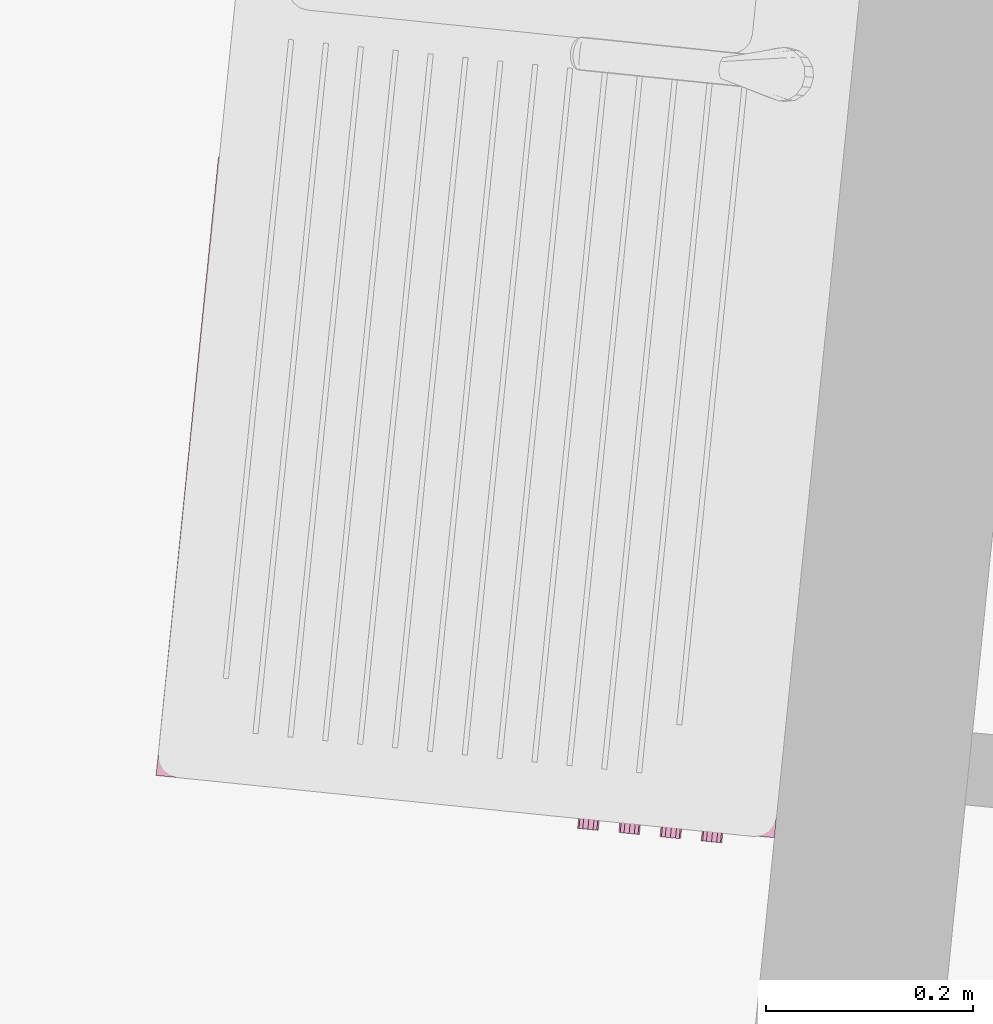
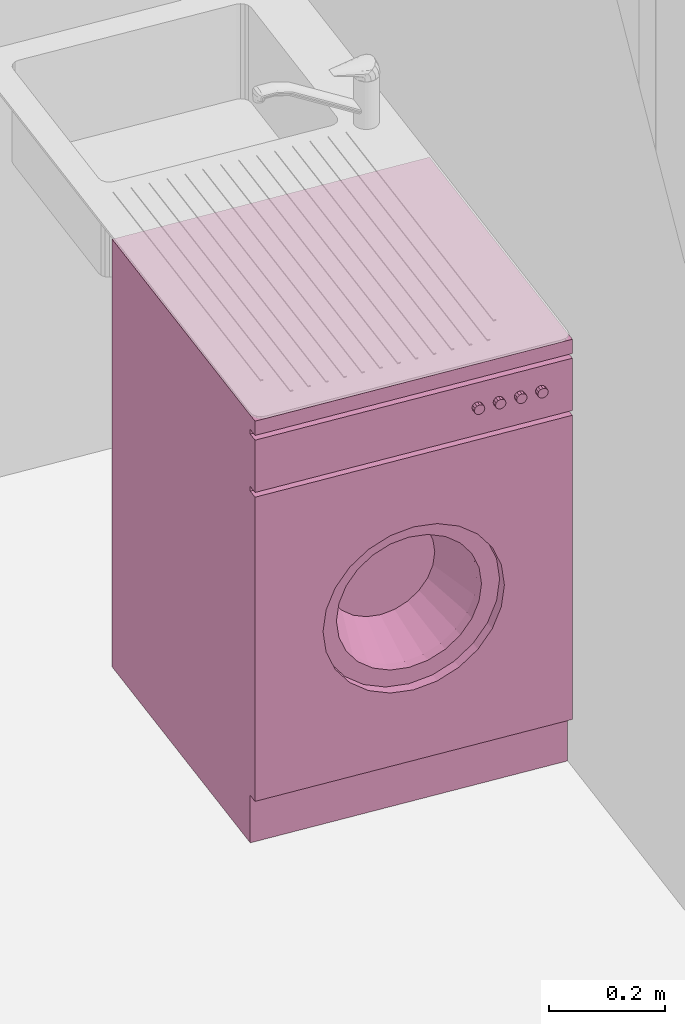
# One storey, part 137 of 171: 1 furnishing.
"""IFC2X3 building model written with IfcOpenShell, lengths in millimetres."""

import ifcopenshell
import ifcopenshell.guid

model = None  # the IFC model being written
_history = None  # IfcOwnerHistory: only IFC2X3 demands one
_inside = {}  # id of a spatial element -> (the spatial element, [elements in it])
_under = {}  # id of a project, library or spatial element -> (it, [spatial elements below it])
_declared = {}  # id of a project -> (the project, [libraries it declares])
_typed = {}  # id of a type object -> (the type object, [elements of that type])
_made_of = {}  # id of a material, layer set ... -> (it, [elements and type objects made of it])


def new_model(schema):
    """Start an empty IFC model of exactly this schema.

    Asked for "IFC4X3", IfcOpenShell would pick the latest addendum, in which some entities
    have other attributes; the version numbers below select the first issue.
    IFC2X3 requires an IfcOwnerHistory on every rooted entity: one is made here for all.
    """
    global model, _history
    if schema == "IFC4X3":
        model = ifcopenshell.file(schema_version=(4, 3, 0, 0))
    else:
        model = ifcopenshell.file(schema=schema)
    _inside.clear()
    _under.clear()
    _declared.clear()
    _typed.clear()
    _made_of.clear()
    _history = None
    if model.schema == "IFC2X3":
        org = make("IfcOrganization", Name="unknown")
        user = make(
            "IfcPersonAndOrganization",
            ThePerson=make("IfcPerson", FamilyName="unknown"),
            TheOrganization=org,
        )
        app = make(
            "IfcApplication",
            ApplicationDeveloper=org,
            Version="unknown",
            ApplicationFullName="unknown",
            ApplicationIdentifier="unknown",
        )
        _history = make(
            "IfcOwnerHistory",
            OwningUser=user,
            OwningApplication=app,
            ChangeAction="ADDED",
            CreationDate=0,
        )
    return model


def make(cls, **values):
    """One entity of the class cls with the attributes given. An attribute that is None is left unset."""
    return model.create_entity(
        cls, **{name: value for name, value in values.items() if value is not None}
    )


def entity(cls, *values):
    """Any entity or typed value of the class cls, its attributes in the order of the schema. None: left unset."""
    e = model.create_entity(cls)
    for i, value in enumerate(values):
        if value is not None:
            e[i] = value
    return e


def rooted(cls, **values):
    """An entity with a GlobalId (a new one), such as an element, a storey or a relation."""
    return make(cls, GlobalId=ifcopenshell.guid.new(), OwnerHistory=_history, **values)


def si_unit(unit_type, name, prefix=None):
    """IfcSIUnit, for example si_unit("LENGTHUNIT", "METRE", prefix="MILLI")."""
    return make("IfcSIUnit", UnitType=unit_type, Prefix=prefix, Name=name)


def converted_unit(unit_type, name, factor, base, dimensions=None, offset=None):
    """IfcConversionBasedUnit, such as the inch: factor (a typed value) times the base unit."""
    return make(
        "IfcConversionBasedUnit"
        if offset is None
        else "IfcConversionBasedUnitWithOffset",
        ConversionOffset=offset,
        Dimensions=None
        if dimensions is None
        else entity("IfcDimensionalExponents", *dimensions),
        UnitType=unit_type,
        Name=name,
        ConversionFactor=make(
            "IfcMeasureWithUnit", ValueComponent=factor, UnitComponent=base
        ),
    )


def derived_unit(unit_type, elements):
    """IfcDerivedUnit: a product of units, each with its exponent."""
    return make(
        "IfcDerivedUnit",
        Elements=[
            make("IfcDerivedUnitElement", Unit=unit, Exponent=power)
            for unit, power in elements
        ],
        UnitType=unit_type,
    )


def money_unit(currency):
    """IfcMonetaryUnit."""
    return make("IfcMonetaryUnit", Currency=currency)


def assignment(units):
    """IfcUnitAssignment: the units of a project."""
    return None if units is None else make("IfcUnitAssignment", Units=units)


def point(xyz):
    """IfcCartesianPoint."""
    return None if xyz is None else make("IfcCartesianPoint", Coordinates=xyz)


def direction(xyz):
    """IfcDirection."""
    return None if xyz is None else make("IfcDirection", DirectionRatios=xyz)


def frame(location, z_axis=None, x_axis=None):
    """IfcAxis2Placement3D, a coordinate frame: its origin and axes. An axis left out is left unset."""
    return make(
        "IfcAxis2Placement3D",
        Location=point(location),
        Axis=direction(z_axis),
        RefDirection=direction(x_axis),
    )


def origin_with_axes():
    """The frame at (0, 0, 0) with the z axis (0, 0, 1) and the x axis (1, 0, 0) written out."""
    return frame((0.0, 0.0, 0.0), z_axis=(0.0, 0.0, 1.0), x_axis=(1.0, 0.0, 0.0))


def place(relative_to, where):
    """IfcLocalPlacement: puts the frame where relative to a parent placement (None: the world)."""
    return make(
        "IfcLocalPlacement", PlacementRelTo=relative_to, RelativePlacement=where
    )


def context(
    kind, dimensions, precision=None, world=None, true_north=None, identifier=None
):
    """IfcGeometricRepresentationContext, for example the 3D "Model" context."""
    return make(
        "IfcGeometricRepresentationContext",
        ContextIdentifier=identifier,
        ContextType=kind,
        CoordinateSpaceDimension=dimensions,
        Precision=precision,
        WorldCoordinateSystem=world,
        TrueNorth=true_north,
    )


def subcontext(parent, identifier, kind, view, scale=None):
    """IfcGeometricRepresentationSubContext, for example "Body" below "Model"."""
    return make(
        "IfcGeometricRepresentationSubContext",
        ContextIdentifier=identifier,
        ContextType=kind,
        ParentContext=parent,
        TargetScale=scale,
        TargetView=view,
    )


def project(units=None, contexts=None):
    """IfcProject with its units and contexts."""
    return rooted(
        "IfcProject",
        Name="project",
        RepresentationContexts=contexts,
        UnitsInContext=assignment(units),
    )


def spatial(cls, under=None, at=None, **own):
    """A site, building, storey or space (cls), placed at a placement, below another one or the project."""
    s = rooted(cls, ObjectPlacement=at, **own)
    if under is not None:
        _under.setdefault(under.id(), (under, []))[1].append(s)
    return s


def faces_of(points, faces, orient=None, outer=None):
    """IfcFace entities. A face is a list of loops; a loop is a list of indices into points, from 0.

    orient and outer hold one flag for each loop. By default every Orientation is true, the
    first loop of a face is its IfcFaceOuterBound and the others are IfcFaceBound.
    """
    made = []
    for i, loops in enumerate(faces):
        bounds = []
        for j, loop in enumerate(loops):
            is_outer = j == 0 if outer is None else outer[i][j]
            bounds.append(
                make(
                    "IfcFaceOuterBound" if is_outer else "IfcFaceBound",
                    Bound=make("IfcPolyLoop", Polygon=[points[k] for k in loop]),
                    Orientation=True if orient is None else orient[i][j],
                )
            )
        made.append(make("IfcFace", Bounds=bounds))
    return made


def open_shell(faces, orient=None, outer=None):
    """The faces of one IfcOpenShell. surface_model builds it on its shared points."""
    return ("IfcOpenShell", faces, orient, outer)


def faceted_brep(points, faces, orient=None, outer=None, voids=None):
    """IfcFacetedBrep: a solid bounded by flat faces; with voids (closed shells), ...WithVoids."""
    shared = [point(p) for p in points]
    hull = make("IfcClosedShell", CfsFaces=faces_of(shared, faces, orient, outer))
    if voids is None:
        return make("IfcFacetedBrep", Outer=hull)
    return make(
        "IfcFacetedBrepWithVoids",
        Outer=hull,
        Voids=[
            make(cls, CfsFaces=faces_of(shared, fs, o, b)) for cls, fs, o, b in voids
        ],
    )


def surface_model(cls, points, shells):
    """IfcFaceBasedSurfaceModel or IfcShellBasedSurfaceModel (cls): surfaces that need not close."""
    shared = [point(p) for p in points]
    made = [make(c, CfsFaces=faces_of(shared, fs, o, b)) for c, fs, o, b in shells]
    if cls == "IfcFaceBasedSurfaceModel":
        return make(cls, FbsmFaces=made)
    return make(cls, SbsmBoundary=made)


def shape(context_of_items, identifier, shape_type, items):
    """IfcShapeRepresentation: the items that make up one representation, for example the "Body"."""
    return make(
        "IfcShapeRepresentation",
        ContextOfItems=context_of_items,
        RepresentationIdentifier=identifier,
        RepresentationType=shape_type,
        Items=items,
    )


def source(mapping_origin, context_of_items, identifier, shape_type, items):
    """IfcRepresentationMap: a shape defined once, which mapped items show again and again."""
    return make(
        "IfcRepresentationMap",
        MappingOrigin=mapping_origin,
        MappedRepresentation=shape(context_of_items, identifier, shape_type, items),
    )


def transform(
    local_origin,
    x_axis=None,
    y_axis=None,
    z_axis=None,
    scale=None,
    scale2=None,
    scale3=None,
    uniform=True,
):
    """IfcCartesianTransformationOperator3D, or its non-uniform kind. x_axis, y_axis, z_axis: its Axis1, 2, 3."""
    if uniform:
        return make(
            "IfcCartesianTransformationOperator3D",
            Axis1=direction(x_axis),
            Axis2=direction(y_axis),
            LocalOrigin=point(local_origin),
            Scale=scale,
            Axis3=direction(z_axis),
        )
    return make(
        "IfcCartesianTransformationOperator3DnonUniform",
        Axis1=direction(x_axis),
        Axis2=direction(y_axis),
        LocalOrigin=point(local_origin),
        Scale=scale,
        Axis3=direction(z_axis),
        Scale2=scale2,
        Scale3=scale3,
    )


def mapped(mapping_source, mapping_target):
    """IfcMappedItem: shows the shape of a source again, moved by a transform."""
    return make(
        "IfcMappedItem", MappingSource=mapping_source, MappingTarget=mapping_target
    )


def made_of(thing, what):
    """Note that an element or type object is made of a material, layer set ...; save() writes the relation."""
    if what is not None:
        _made_of.setdefault(what.id(), (what, []))[1].append(thing)
    return thing


def type_object(cls, material=None, **own):
    """A type object (cls), such as IfcWallType, which elements share."""
    return made_of(rooted(cls, **own), material)


def element(
    cls,
    number,
    at=None,
    inside=None,
    cuts=None,
    type_object=None,
    material=None,
    context=None,
    identifier="Body",
    shape_type=None,
    held_by="IfcProductDefinitionShape",
    body=None,
    shapes=None,
    **own,
):
    """One element of the class cls, such as IfcWall. Its Tag is "e" and its number.

    at: its placement. inside: the storey or other place that contains it. cuts: it is an
    opening in that element (IfcRelVoidsElement). A single representation is given by context,
    identifier, shape_type and body (its items); several are given by shapes. held_by: the class
    of the entity that holds the representations. save() writes the other relations.
    """
    e = rooted(cls, Tag="e%d" % number, ObjectPlacement=at, **own)
    if body is not None:
        shapes = [shape(context, identifier, shape_type, body)]
    if shapes is not None:
        e.Representation = make(held_by, Representations=shapes)
    if inside is not None:
        _inside.setdefault(inside.id(), (inside, []))[1].append(e)
    if cuts is not None:
        rooted(
            "IfcRelVoidsElement", RelatingBuildingElement=cuts, RelatedOpeningElement=e
        )
    if type_object is not None:
        _typed.setdefault(type_object.id(), (type_object, []))[1].append(e)
    return made_of(e, material)


def aggregate(whole, parts):
    """IfcRelAggregates: a whole, such as a stair, and the parts it consists of."""
    return rooted("IfcRelAggregates", RelatingObject=whole, RelatedObjects=parts)


def save(model, path):
    """Write the relations noted so far, then the file.

    IfcRelAggregates (storeys below a building ...), IfcRelContainedInSpatialStructure (elements
    in a storey), IfcRelDefinesByType, IfcRelAssociatesMaterial and IfcRelDeclares: one each for
    every whole, place, type object, material and project.
    """
    for whole, parts in _under.values():
        aggregate(whole, parts)
    for where, things in _inside.values():
        rooted(
            "IfcRelContainedInSpatialStructure",
            RelatedElements=things,
            RelatingStructure=where,
        )
    for kind, things in _typed.values():
        rooted("IfcRelDefinesByType", RelatedObjects=things, RelatingType=kind)
    for what, things in _made_of.values():
        rooted("IfcRelAssociatesMaterial", RelatedObjects=things, RelatingMaterial=what)
    for by, libraries in _declared.values():
        rooted("IfcRelDeclares", RelatingContext=by, RelatedDefinitions=libraries)
    model.write(path)


model = new_model("IFC2X3")

# Units and contexts
model_context = context("Model", 3, precision=0.01, world=origin_with_axes(), true_north=direction((0.0, 1.0)))
body_context = subcontext(model_context, "Body", "Model", "MODEL_VIEW")
ifc_project = project(units=[si_unit("LENGTHUNIT", "METRE", prefix="MILLI"), si_unit("AREAUNIT", "SQUARE_METRE"), si_unit("VOLUMEUNIT", "CUBIC_METRE"), converted_unit("PLANEANGLEUNIT", "DEGREE", entity("IfcPlaneAngleMeasure", 0.0174532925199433), si_unit("PLANEANGLEUNIT", "RADIAN"), dimensions=[0, 0, 0, 0, 0, 0, 0]), money_unit("USD"), converted_unit("TIMEUNIT", "Year", entity("IfcTimeMeasure", 31557600.0), si_unit("TIMEUNIT", "SECOND"), dimensions=[0, 0, 1, 0, 0, 0, 0]), si_unit("MASSUNIT", "GRAM", prefix="KILO"), si_unit("THERMODYNAMICTEMPERATUREUNIT", "DEGREE_CELSIUS"), si_unit("LUMINOUSINTENSITYUNIT", "LUMEN"), si_unit("ENERGYUNIT", "JOULE", prefix="MEGA"), derived_unit("THERMALCONDUCTANCEUNIT", [(si_unit("POWERUNIT", "WATT"), 1), (si_unit("LENGTHUNIT", "METRE"), -1), (si_unit("THERMODYNAMICTEMPERATUREUNIT", "KELVIN"), -1)]), derived_unit("SPECIFICHEATCAPACITYUNIT", [(si_unit("ENERGYUNIT", "JOULE"), 1), (si_unit("MASSUNIT", "GRAM", prefix="KILO"), -1), (si_unit("THERMODYNAMICTEMPERATUREUNIT", "KELVIN"), -1)]), derived_unit("MASSDENSITYUNIT", [(si_unit("MASSUNIT", "GRAM", prefix="KILO"), 1), (si_unit("VOLUMEUNIT", "CUBIC_METRE"), -1)])], contexts=[model_context])

# Site, building, storey
site_placement = place(None, origin_with_axes())
site = spatial("IfcSite", under=ifc_project, at=site_placement, Name="Site", CompositionType="ELEMENT")
building_placement = place(site_placement, origin_with_axes())
building = spatial("IfcBuilding", under=site, at=building_placement, Name="Bâtiment", CompositionType="ELEMENT")
storey_placement = place(building_placement, frame((0.0, 0.0, 3000.0), z_axis=(0.0, 0.0, 1.0), x_axis=(1.0, 0.0, 0.0)))
storey = spatial("IfcBuildingStorey", under=building, at=storey_placement, Name="rdc", CompositionType="ELEMENT", Elevation=3000.0)

# Furnishing
furnishing_element_type = type_object("IfcFurnishingElementType", Name="Machine à laver")
shared_shape = source(origin_with_axes(), body_context, "Body", "SurfaceModel", [
    faceted_brep([(0.0, 20.0, 100.0), (0.0, 0.0, 100.0), (-600.0, 0.0, 100.0), (-600.0, 20.0, 100.0), (0.0, 20.00000000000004, 740.0), (0.0, 0.0, 740.0), (-600.0, 0.0, 740.0), (-471.4285714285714, 0.0, 420.0000000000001), (-465.5872845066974, 0.0, 464.3689791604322), (-448.4614977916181, 0.0, 505.7142857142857), (-421.2183053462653, 0.0, 541.2183053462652), (-385.7142857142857, 0.0, 568.4614977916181), (-344.3689791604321, 0.0, 585.5872845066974), (-300.0000000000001, 0.0, 591.4285714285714), (-255.6310208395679, 0.0, 585.5872845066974), (-214.2857142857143, 0.0, 568.4614977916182), (-178.7816946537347, 0.0, 541.2183053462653), (-151.5385022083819, 0.0, 505.7142857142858), (-134.4127154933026, 0.0, 464.3689791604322), (-128.5714285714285, 0.0, 420.0000000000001), (-134.4127154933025, 0.0, 375.6310208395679), (-151.5385022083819, 0.0, 334.2857142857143), (-178.7816946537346, 0.0, 298.7816946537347), (-214.2857142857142, 0.0, 271.5385022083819), (-255.6310208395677, 0.0, 254.4127154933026), (-299.9999999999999, 0.0, 248.5714285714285), (-344.368979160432, 0.0, 254.4127154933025), (-385.7142857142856, 0.0, 271.5385022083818), (-421.2183053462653, 0.0, 298.7816946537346), (-448.4614977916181, 0.0, 334.2857142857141), (-465.5872845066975, 0.0, 375.6310208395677), (-600.0, 20.00000000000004, 740.0), (-471.4285714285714, 20.00000000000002, 420.0000000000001), (-465.5872845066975, 20.00000000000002, 375.6310208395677), (-448.4614977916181, 20.00000000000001, 334.2857142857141), (-421.2183053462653, 20.00000000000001, 298.7816946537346), (-385.7142857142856, 20.00000000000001, 271.5385022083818), (-344.368979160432, 20.00000000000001, 254.4127154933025), (-299.9999999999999, 20.00000000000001, 248.5714285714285), (-255.6310208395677, 20.00000000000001, 254.4127154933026), (-214.2857142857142, 20.00000000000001, 271.5385022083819), (-178.7816946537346, 20.00000000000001, 298.7816946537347), (-151.5385022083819, 20.00000000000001, 334.2857142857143), (-134.4127154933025, 20.00000000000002, 375.6310208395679), (-128.5714285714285, 20.00000000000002, 420.0000000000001), (-134.4127154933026, 20.00000000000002, 464.3689791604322), (-151.5385022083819, 20.00000000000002, 505.7142857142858), (-178.7816946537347, 20.00000000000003, 541.2183053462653), (-214.2857142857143, 20.00000000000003, 568.4614977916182), (-255.6310208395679, 20.00000000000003, 585.5872845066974), (-300.0000000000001, 20.00000000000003, 591.4285714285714), (-344.3689791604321, 20.00000000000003, 585.5872845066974), (-385.7142857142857, 20.00000000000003, 568.4614977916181), (-421.2183053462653, 20.00000000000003, 541.2183053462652), (-448.4614977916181, 20.00000000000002, 505.7142857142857), (-465.5872845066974, 20.00000000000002, 464.3689791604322)], [[[0, 1, 2, 3]], [[4, 5, 1, 0]], [[1, 5, 6, 2], [7, 8, 9, 10, 11, 12, 13, 14, 15, 16, 17, 18, 19, 20, 21, 22, 23, 24, 25, 26, 27, 28, 29, 30]], [[3, 2, 6, 31]], [[0, 3, 31, 4], [32, 33, 34, 35, 36, 37, 38, 39, 40, 41, 42, 43, 44, 45, 46, 47, 48, 49, 50, 51, 52, 53, 54, 55]], [[31, 6, 5, 4]], [[55, 8, 7, 32]], [[54, 9, 8, 55]], [[53, 10, 9, 54]], [[52, 11, 10, 53]], [[51, 12, 11, 52]], [[50, 13, 12, 51]], [[49, 14, 13, 50]], [[48, 15, 14, 49]], [[47, 16, 15, 48]], [[46, 17, 16, 47]], [[45, 18, 17, 46]], [[44, 19, 18, 45]], [[43, 20, 19, 44]], [[42, 21, 20, 43]], [[41, 22, 21, 42]], [[40, 23, 22, 41]], [[39, 24, 23, 40]], [[38, 25, 24, 39]], [[37, 26, 25, 38]], [[36, 27, 26, 37]], [[35, 28, 27, 36]], [[34, 29, 28, 35]], [[33, 30, 29, 34]], [[32, 7, 30, 33]]]),
    faceted_brep([(-471.4285714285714, 40.00000000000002, 420.0000000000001), (-471.4285714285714, 20.00000000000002, 420.0000000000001), (-465.5872845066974, 20.00000000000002, 464.3689791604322), (-465.5872845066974, 40.00000000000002, 464.3689791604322), (-465.5872845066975, 40.00000000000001, 375.6310208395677), (-465.5872845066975, 20.00000000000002, 375.6310208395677), (-448.4614977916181, 20.00000000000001, 334.2857142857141), (-421.2183053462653, 20.00000000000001, 298.7816946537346), (-385.7142857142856, 20.00000000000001, 271.5385022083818), (-344.368979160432, 20.00000000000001, 254.4127154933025), (-299.9999999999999, 20.00000000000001, 248.5714285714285), (-255.6310208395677, 20.00000000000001, 254.4127154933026), (-214.2857142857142, 20.00000000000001, 271.5385022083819), (-178.7816946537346, 20.00000000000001, 298.7816946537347), (-151.5385022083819, 20.00000000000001, 334.2857142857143), (-134.4127154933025, 20.00000000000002, 375.6310208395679), (-128.5714285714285, 20.00000000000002, 420.0000000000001), (-134.4127154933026, 20.00000000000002, 464.3689791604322), (-151.5385022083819, 20.00000000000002, 505.7142857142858), (-178.7816946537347, 20.00000000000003, 541.2183053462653), (-214.2857142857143, 20.00000000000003, 568.4614977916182), (-255.6310208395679, 20.00000000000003, 585.5872845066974), (-300.0000000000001, 20.00000000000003, 591.4285714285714), (-344.3689791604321, 20.00000000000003, 585.5872845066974), (-385.7142857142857, 20.00000000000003, 568.4614977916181), (-421.2183053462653, 20.00000000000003, 541.2183053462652), (-448.4614977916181, 20.00000000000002, 505.7142857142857), (-437.1428571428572, 20.00000000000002, 420.0000000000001), (-432.469827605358, 20.00000000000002, 455.4951833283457), (-418.7691982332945, 20.00000000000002, 488.5714285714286), (-396.9746442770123, 20.00000000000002, 516.9746442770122), (-368.5714285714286, 20.00000000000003, 538.7691982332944), (-335.4951833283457, 20.00000000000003, 552.469827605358), (-300.0000000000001, 20.00000000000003, 557.1428571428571), (-264.5048166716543, 20.00000000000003, 552.469827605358), (-231.4285714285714, 20.00000000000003, 538.7691982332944), (-203.0253557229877, 20.00000000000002, 516.9746442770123), (-181.2308017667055, 20.00000000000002, 488.5714285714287), (-167.530172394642, 20.00000000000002, 455.4951833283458), (-162.8571428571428, 20.00000000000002, 420.0000000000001), (-167.530172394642, 20.00000000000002, 384.5048166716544), (-181.2308017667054, 20.00000000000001, 351.4285714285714), (-203.0253557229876, 20.00000000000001, 323.0253557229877), (-231.4285714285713, 20.00000000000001, 301.2308017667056), (-264.5048166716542, 20.00000000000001, 287.530172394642), (-299.9999999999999, 20.00000000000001, 282.8571428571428), (-335.4951833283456, 20.00000000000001, 287.530172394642), (-368.5714285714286, 20.00000000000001, 301.2308017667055), (-396.9746442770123, 20.00000000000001, 323.0253557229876), (-418.7691982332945, 20.00000000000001, 351.4285714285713), (-432.469827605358, 20.00000000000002, 384.5048166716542), (-448.4614977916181, 40.00000000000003, 505.7142857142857), (-421.2183053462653, 40.00000000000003, 541.2183053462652), (-385.7142857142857, 40.00000000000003, 568.4614977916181), (-344.3689791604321, 40.00000000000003, 585.5872845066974), (-300.0000000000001, 40.00000000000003, 591.4285714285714), (-255.6310208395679, 40.00000000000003, 585.5872845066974), (-214.2857142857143, 40.00000000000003, 568.4614977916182), (-178.7816946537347, 40.00000000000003, 541.2183053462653), (-151.5385022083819, 40.00000000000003, 505.7142857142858), (-134.4127154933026, 40.00000000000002, 464.3689791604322), (-128.5714285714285, 40.00000000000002, 420.0000000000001), (-134.4127154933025, 40.00000000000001, 375.6310208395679), (-151.5385022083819, 40.00000000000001, 334.2857142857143), (-178.7816946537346, 40.00000000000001, 298.7816946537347), (-214.2857142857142, 40.00000000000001, 271.5385022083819), (-255.6310208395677, 40.00000000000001, 254.4127154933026), (-299.9999999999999, 40.00000000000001, 248.5714285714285), (-344.368979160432, 40.00000000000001, 254.4127154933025), (-385.7142857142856, 40.00000000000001, 271.5385022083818), (-421.2183053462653, 40.00000000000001, 298.7816946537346), (-448.4614977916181, 40.00000000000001, 334.2857142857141), (-437.1428571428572, 40.00000000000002, 420.0000000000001), (-432.469827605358, 40.00000000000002, 384.5048166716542), (-418.7691982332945, 40.00000000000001, 351.4285714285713), (-396.9746442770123, 40.00000000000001, 323.0253557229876), (-368.5714285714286, 40.00000000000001, 301.2308017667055), (-335.4951833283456, 40.00000000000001, 287.530172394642), (-299.9999999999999, 40.00000000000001, 282.8571428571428), (-264.5048166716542, 40.00000000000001, 287.530172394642), (-231.4285714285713, 40.00000000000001, 301.2308017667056), (-203.0253557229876, 40.00000000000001, 323.0253557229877), (-181.2308017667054, 40.00000000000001, 351.4285714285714), (-167.530172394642, 40.00000000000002, 384.5048166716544), (-162.8571428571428, 40.00000000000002, 420.0000000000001), (-167.530172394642, 40.00000000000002, 455.4951833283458), (-181.2308017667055, 40.00000000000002, 488.5714285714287), (-203.0253557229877, 40.00000000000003, 516.9746442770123), (-231.4285714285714, 40.00000000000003, 538.7691982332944), (-264.5048166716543, 40.00000000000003, 552.469827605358), (-300.0000000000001, 40.00000000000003, 557.1428571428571), (-335.4951833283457, 40.00000000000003, 552.469827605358), (-368.5714285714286, 40.00000000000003, 538.7691982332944), (-396.9746442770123, 40.00000000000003, 516.9746442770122), (-418.7691982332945, 40.00000000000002, 488.5714285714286), (-432.469827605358, 40.00000000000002, 455.4951833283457)], [[[0, 1, 2, 3]], [[4, 5, 1, 0]], [[1, 5, 6, 7, 8, 9, 10, 11, 12, 13, 14, 15, 16, 17, 18, 19, 20, 21, 22, 23, 24, 25, 26, 2], [27, 28, 29, 30, 31, 32, 33, 34, 35, 36, 37, 38, 39, 40, 41, 42, 43, 44, 45, 46, 47, 48, 49, 50]], [[3, 2, 26, 51]], [[0, 3, 51, 52, 53, 54, 55, 56, 57, 58, 59, 60, 61, 62, 63, 64, 65, 66, 67, 68, 69, 70, 71, 4], [72, 73, 74, 75, 76, 77, 78, 79, 80, 81, 82, 83, 84, 85, 86, 87, 88, 89, 90, 91, 92, 93, 94, 95]], [[71, 6, 5, 4]], [[70, 7, 6, 71]], [[69, 8, 7, 70]], [[68, 9, 8, 69]], [[67, 10, 9, 68]], [[66, 11, 10, 67]], [[65, 12, 11, 66]], [[64, 13, 12, 65]], [[63, 14, 13, 64]], [[62, 15, 14, 63]], [[61, 16, 15, 62]], [[60, 17, 16, 61]], [[59, 18, 17, 60]], [[58, 19, 18, 59]], [[57, 20, 19, 58]], [[56, 21, 20, 57]], [[55, 22, 21, 56]], [[54, 23, 22, 55]], [[53, 24, 23, 54]], [[52, 25, 24, 53]], [[51, 26, 25, 52]], [[95, 28, 27, 72]], [[94, 29, 28, 95]], [[93, 30, 29, 94]], [[92, 31, 30, 93]], [[91, 32, 31, 92]], [[90, 33, 32, 91]], [[89, 34, 33, 90]], [[88, 35, 34, 89]], [[87, 36, 35, 88]], [[86, 37, 36, 87]], [[85, 38, 37, 86]], [[84, 39, 38, 85]], [[83, 40, 39, 84]], [[82, 41, 40, 83]], [[81, 42, 41, 82]], [[80, 43, 42, 81]], [[79, 44, 43, 80]], [[78, 45, 44, 79]], [[77, 46, 45, 78]], [[76, 47, 46, 77]], [[75, 48, 47, 76]], [[74, 49, 48, 75]], [[73, 50, 49, 74]], [[72, 27, 50, 73]]]),
    surface_model("IfcShellBasedSurfaceModel", [(-264.5048166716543, 39.99999999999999, 552.469827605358), (-273.3786125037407, 140.0, 519.3523707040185), (-300.0, 140.0, 522.8571428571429), (-300.0, 39.99999999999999, 557.1428571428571), (-231.4285714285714, 39.99999999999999, 538.7691982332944), (-248.5714285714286, 140.0, 509.0768986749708), (-227.2690167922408, 140.0, 492.7309832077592), (-210.9231013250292, 140.0, 471.4285714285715), (-200.6476292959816, 140.0, 446.6213874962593), (-197.1428571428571, 140.0, 420.0000000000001), (-200.6476292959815, 140.0, 393.3786125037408), (-210.9231013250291, 140.0, 368.5714285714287), (-227.2690167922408, 140.0, 347.2690167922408), (-248.5714285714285, 140.0, 330.9231013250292), (-273.3786125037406, 140.0, 320.6476292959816), (-299.9999999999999, 140.0, 317.1428571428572), (-326.6213874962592, 140.0, 320.6476292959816), (-351.4285714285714, 140.0, 330.9231013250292), (-372.7309832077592, 140.0, 347.2690167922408), (-389.0768986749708, 140.0, 368.5714285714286), (-399.3523707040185, 140.0, 393.3786125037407), (-402.8571428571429, 140.0, 420.0), (-399.3523707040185, 140.0, 446.6213874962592), (-389.0768986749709, 140.0, 471.4285714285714), (-372.7309832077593, 140.0, 492.7309832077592), (-351.4285714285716, 140.0, 509.0768986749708), (-326.6213874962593, 140.0, 519.3523707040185), (-335.4951833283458, 39.99999999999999, 552.469827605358), (-203.0253557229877, 39.99999999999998, 516.9746442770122), (-181.2308017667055, 39.99999999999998, 488.5714285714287), (-167.5301723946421, 39.99999999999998, 455.4951833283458), (-162.8571428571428, 39.99999999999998, 420.0000000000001), (-167.530172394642, 39.99999999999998, 384.5048166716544), (-181.2308017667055, 39.99999999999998, 351.4285714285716), (-203.0253557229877, 39.99999999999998, 323.0253557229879), (-231.4285714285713, 39.99999999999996, 301.2308017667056), (-264.5048166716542, 39.99999999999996, 287.5301723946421), (-299.9999999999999, 39.99999999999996, 282.8571428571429), (-335.4951833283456, 39.99999999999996, 287.5301723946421), (-368.5714285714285, 39.99999999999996, 301.2308017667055), (-396.9746442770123, 39.99999999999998, 323.0253557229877), (-418.7691982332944, 39.99999999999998, 351.4285714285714), (-432.469827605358, 39.99999999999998, 384.5048166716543), (-437.1428571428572, 39.99999999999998, 419.9999999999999), (-432.469827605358, 39.99999999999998, 455.4951833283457), (-418.7691982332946, 39.99999999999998, 488.5714285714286), (-396.9746442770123, 39.99999999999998, 516.9746442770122), (-368.5714285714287, 39.99999999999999, 538.7691982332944)], [open_shell([[[0, 1, 2, 3]], [[4, 5, 1, 0]], [[2, 1, 5, 6, 7, 8, 9, 10, 11, 12, 13, 14, 15, 16, 17, 18, 19, 20, 21, 22, 23, 24, 25, 26]], [[3, 2, 26, 27]], [[28, 6, 5, 4]], [[29, 7, 6, 28]], [[30, 8, 7, 29]], [[31, 9, 8, 30]], [[32, 10, 9, 31]], [[33, 11, 10, 32]], [[34, 12, 11, 33]], [[35, 13, 12, 34]], [[36, 14, 13, 35]], [[37, 15, 14, 36]], [[38, 16, 15, 37]], [[39, 17, 16, 38]], [[40, 18, 17, 39]], [[41, 19, 18, 40]], [[42, 20, 19, 41]], [[43, 21, 20, 42]], [[44, 22, 21, 43]], [[45, 23, 22, 44]], [[46, 24, 23, 45]], [[47, 25, 24, 46]], [[27, 26, 25, 47]]])]),
    surface_model("IfcShellBasedSurfaceModel", [(0.0, 20.0, 100.0), (0.0, 600.0, 99.99999999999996), (0.0, 600.0, 870.0), (0.0, 20.00000000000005, 870.0)], [open_shell([[[0, 1, 2, 3]]])]),
    surface_model("IfcShellBasedSurfaceModel", [(-600.0, 19.99999999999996, 100.0), (-600.0, 599.9999999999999, 99.99999999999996), (-600.0, 599.9999999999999, 870.0), (-600.0, 20.00000000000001, 870.0)], [open_shell([[[0, 1, 2, 3]]])]),
    surface_model("IfcShellBasedSurfaceModel", [(0.0, 600.0, 100.0), (-600.0, 600.0, 100.0), (-600.0, 600.0, 870.0), (0.0, 600.0, 870.0)], [open_shell([[[0, 1, 2, 3]]])]),
    faceted_brep([(0.0, 20.0, 0.0), (0.0, 20.0, 100.0), (-600.0, 20.0, 100.0), (-600.0, 20.0, 0.0), (0.0, 600.0, 0.0), (0.0, 600.0, 100.0), (-600.0, 600.0, 100.0), (-600.0, 600.0, 0.0)], [[[0, 1, 2, 3]], [[4, 5, 1, 0]], [[1, 5, 6, 2]], [[3, 2, 6, 7]], [[0, 3, 7, 4]], [[7, 6, 5, 4]]]),
    faceted_brep([(0.0, 20.0, 750.0), (0.0, 0.0, 750.0), (-600.0, 0.0, 750.0), (-600.0, 20.0, 750.0), (0.0, 20.00000000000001, 860.0), (0.0, 0.0, 860.0), (-600.0, 0.0, 860.0), (-600.0, 20.00000000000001, 860.0)], [[[0, 1, 2, 3]], [[4, 5, 1, 0]], [[1, 5, 6, 2]], [[3, 2, 6, 7]], [[0, 3, 7, 4]], [[7, 6, 5, 4]]]),
    surface_model("IfcShellBasedSurfaceModel", [(0.0, 20.0, 740.0), (-600.0, 20.0, 740.0), (-600.0, 20.00000000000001, 870.0), (0.0, 20.00000000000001, 870.0)], [open_shell([[[0, 1, 2, 3]]])]),
    faceted_brep([(0.0, 0.0, 870.0), (0.0, 0.0, 900.0), (-600.0, 0.0, 900.0), (-600.0, 0.0, 870.0), (0.0, 600.0, 870.0), (0.0, 600.0, 900.0), (-600.0, 600.0, 900.0), (-600.0, 600.0, 870.0)], [[[0, 1, 2, 3]], [[4, 5, 1, 0]], [[1, 5, 6, 2]], [[3, 2, 6, 7]], [[0, 3, 7, 4]], [[7, 6, 5, 4]]]),
    faceted_brep([(-68.66025403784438, 0.0, 804.9999999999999), (-69.99999999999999, 0.0, 809.9999999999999), (-68.66025403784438, 0.0, 815.0), (-65.0, 0.0, 818.6602540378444), (-60.0, 0.0, 820.0), (-55.0, 0.0, 818.6602540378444), (-51.33974596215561, 0.0, 815.0), (-49.99999999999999, 0.0, 809.9999999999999), (-51.33974596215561, 0.0, 804.9999999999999), (-54.99999999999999, 0.0, 801.3397459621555), (-59.99999999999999, 0.0, 799.9999999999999), (-64.99999999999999, 0.0, 801.3397459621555), (-68.66025403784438, -10.0, 804.9999999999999), (-69.99999999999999, -10.0, 809.9999999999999), (-68.66025403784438, -10.0, 815.0), (-65.0, -10.0, 818.6602540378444), (-60.0, -10.0, 820.0), (-55.0, -10.0, 818.6602540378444), (-51.33974596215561, -10.0, 815.0), (-49.99999999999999, -10.0, 809.9999999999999), (-51.33974596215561, -10.0, 804.9999999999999), (-54.99999999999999, -10.0, 801.3397459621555), (-59.99999999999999, -10.0, 799.9999999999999), (-64.99999999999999, -10.0, 801.3397459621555)], [[[0, 1, 2, 3, 4, 5, 6, 7, 8, 9, 10, 11]], [[0, 12, 13, 1]], [[1, 13, 14, 2]], [[2, 14, 15, 3]], [[3, 15, 16, 4]], [[4, 16, 17, 5]], [[5, 17, 18, 6]], [[6, 18, 19, 7]], [[7, 19, 20, 8]], [[8, 20, 21, 9]], [[9, 21, 22, 10]], [[10, 22, 23, 11]], [[11, 23, 12, 0]], [[12, 23, 22, 21, 20, 19, 18, 17, 16, 15, 14, 13]]]),
    faceted_brep([(-108.6602540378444, 0.0, 804.9999999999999), (-110.0, 0.0, 809.9999999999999), (-108.6602540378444, 0.0, 815.0), (-105.0, 0.0, 818.6602540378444), (-100.0, 0.0, 820.0), (-95.0, 0.0, 818.6602540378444), (-91.33974596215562, 0.0, 815.0), (-90.00000000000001, 0.0, 809.9999999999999), (-91.33974596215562, 0.0, 804.9999999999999), (-95.0, 0.0, 801.3397459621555), (-99.99999999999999, 0.0, 799.9999999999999), (-105.0, 0.0, 801.3397459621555), (-108.6602540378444, -10.0, 804.9999999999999), (-110.0, -10.0, 809.9999999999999), (-108.6602540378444, -10.0, 815.0), (-105.0, -10.0, 818.6602540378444), (-100.0, -10.0, 820.0), (-95.0, -10.0, 818.6602540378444), (-91.33974596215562, -10.0, 815.0), (-90.00000000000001, -10.0, 809.9999999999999), (-91.33974596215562, -10.0, 804.9999999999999), (-95.0, -10.0, 801.3397459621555), (-99.99999999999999, -10.0, 799.9999999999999), (-105.0, -10.0, 801.3397459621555)], [[[0, 1, 2, 3, 4, 5, 6, 7, 8, 9, 10, 11]], [[0, 12, 13, 1]], [[1, 13, 14, 2]], [[2, 14, 15, 3]], [[3, 15, 16, 4]], [[4, 16, 17, 5]], [[5, 17, 18, 6]], [[6, 18, 19, 7]], [[7, 19, 20, 8]], [[8, 20, 21, 9]], [[9, 21, 22, 10]], [[10, 22, 23, 11]], [[11, 23, 12, 0]], [[12, 23, 22, 21, 20, 19, 18, 17, 16, 15, 14, 13]]]),
    faceted_brep([(-148.6602540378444, 0.0, 804.9999999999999), (-150.0, 0.0, 809.9999999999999), (-148.6602540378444, 0.0, 815.0), (-145.0, 0.0, 818.6602540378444), (-140.0, 0.0, 820.0), (-135.0, 0.0, 818.6602540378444), (-131.3397459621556, 0.0, 815.0), (-130.0, 0.0, 809.9999999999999), (-131.3397459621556, 0.0, 804.9999999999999), (-135.0, 0.0, 801.3397459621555), (-140.0, 0.0, 799.9999999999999), (-145.0, 0.0, 801.3397459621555), (-148.6602540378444, -10.0, 804.9999999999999), (-150.0, -10.0, 809.9999999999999), (-148.6602540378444, -10.0, 815.0), (-145.0, -10.0, 818.6602540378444), (-140.0, -10.0, 820.0), (-135.0, -10.0, 818.6602540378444), (-131.3397459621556, -10.0, 815.0), (-130.0, -10.0, 809.9999999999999), (-131.3397459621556, -10.0, 804.9999999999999), (-135.0, -10.0, 801.3397459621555), (-140.0, -10.0, 799.9999999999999), (-145.0, -10.0, 801.3397459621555)], [[[0, 1, 2, 3, 4, 5, 6, 7, 8, 9, 10, 11]], [[0, 12, 13, 1]], [[1, 13, 14, 2]], [[2, 14, 15, 3]], [[3, 15, 16, 4]], [[4, 16, 17, 5]], [[5, 17, 18, 6]], [[6, 18, 19, 7]], [[7, 19, 20, 8]], [[8, 20, 21, 9]], [[9, 21, 22, 10]], [[10, 22, 23, 11]], [[11, 23, 12, 0]], [[12, 23, 22, 21, 20, 19, 18, 17, 16, 15, 14, 13]]]),
    faceted_brep([(-188.6602540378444, 0.0, 804.9999999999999), (-190.0, 0.0, 809.9999999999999), (-188.6602540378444, 0.0, 815.0), (-185.0, 0.0, 818.6602540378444), (-180.0, 0.0, 820.0), (-175.0, 0.0, 818.6602540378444), (-171.3397459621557, 0.0, 815.0), (-170.0, 0.0, 809.9999999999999), (-171.3397459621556, 0.0, 804.9999999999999), (-175.0, 0.0, 801.3397459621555), (-180.0, 0.0, 799.9999999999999), (-185.0, 0.0, 801.3397459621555), (-188.6602540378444, -10.0, 804.9999999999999), (-190.0, -10.0, 809.9999999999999), (-188.6602540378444, -10.0, 815.0), (-185.0, -10.0, 818.6602540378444), (-180.0, -10.0, 820.0), (-175.0, -10.0, 818.6602540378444), (-171.3397459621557, -10.0, 815.0), (-170.0, -10.0, 809.9999999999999), (-171.3397459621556, -10.0, 804.9999999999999), (-175.0, -10.0, 801.3397459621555), (-180.0, -10.0, 799.9999999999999), (-185.0, -10.0, 801.3397459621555)], [[[0, 1, 2, 3, 4, 5, 6, 7, 8, 9, 10, 11]], [[0, 12, 13, 1]], [[1, 13, 14, 2]], [[2, 14, 15, 3]], [[3, 15, 16, 4]], [[4, 16, 17, 5]], [[5, 17, 18, 6]], [[6, 18, 19, 7]], [[7, 19, 20, 8]], [[8, 20, 21, 9]], [[9, 21, 22, 10]], [[10, 22, 23, 11]], [[11, 23, 12, 0]], [[12, 23, 22, 21, 20, 19, 18, 17, 16, 15, 14, 13]]]),
])
furnishing_placement = place(storey_placement, frame((2224633.082246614, -619054.7117289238, 0.0), z_axis=(0.0, 0.0, 1.0), x_axis=(0.9949567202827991, -0.100305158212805, 0.0)))
element("IfcFurnishingElement", 1, at=furnishing_placement, inside=storey, type_object=furnishing_element_type, Name="Obj.-019", context=body_context, shape_type="MappedRepresentation", body=[
    mapped(shared_shape, transform((0.0, 0.0, 0.0))),
])

save(model, "model.ifc")
